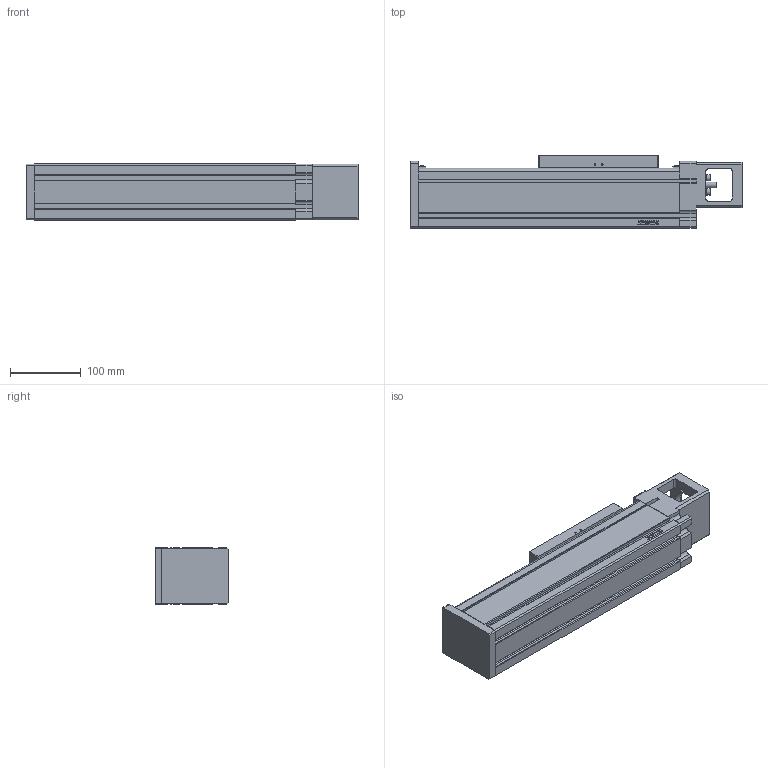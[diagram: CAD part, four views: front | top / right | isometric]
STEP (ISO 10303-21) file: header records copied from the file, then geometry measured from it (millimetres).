
FILE_DESCRIPTION(/* description */ (''),/* implementation_level */ '2;1');
FILE_NAME(/* name */ 'D:\混合母檔20191031\混和母檔\混和母檔\bin\Debug\Download\3D\KU80-20C-150AF0\KU80-20C-150AF0.stp',/* time_stamp */ '2019-11-04T17:14:14+08:00',/* author */ ('user'),/* organization */ (''),/* preprocessor_version */ 'ST-DEVELOPER v16.13',/* originating_system */ 'Autodesk Inventor 2018',/* authorisation */ '');
FILE_SCHEMA (('AUTOMOTIVE_DESIGN { 1 0 10303 214 3 1 1 }'));
Length unit declared in the file: millimetre
Products named in the file (3): KU80-20C-150AF0; KU80-F0-BP; KU80-SL
Assembly tree (2 placements, depth 2):
  KU80-20C-150AF0
    KU80-F0-BP
    KU80-SL
Bounding box: 470 x 103 x 80 mm (x, y, z)
Volume: 2950324.1 mm3; surface area: 282494.5 mm2
Topology: 2 solids, 10 shells, 862 faces, 2315 edges, 1508 vertices
Faces by surface type: plane 509, bspline 136, cylinder 104, cone 81, torus 28, sphere 4
Full cylindrical faces by diameter (mm): 2.459 x4, 2.729 x4, 3 x4, 3.242 x4, 3.5 x4, 4.134 x16, 5 x4, 5.5 x8, 5.6 x2, 8 x1, 8.5 x4, 12 x1, 46.5 x1
Entity records: 27990 total; most frequent: CARTESIAN_POINT 7413, ORIENTED_EDGE 4362, DIRECTION 3790, EDGE_CURVE 2181, VERTEX_POINT 1469, LINE 1298, VECTOR 1298, AXIS2_PLACEMENT_3D 1246
